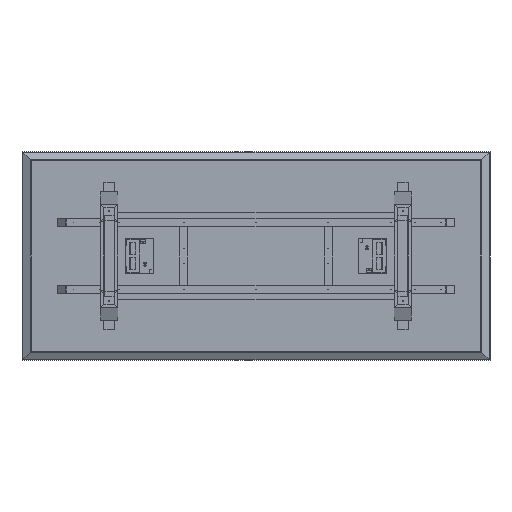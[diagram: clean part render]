
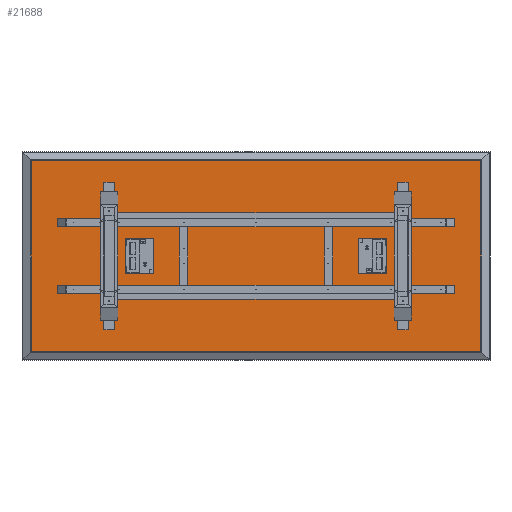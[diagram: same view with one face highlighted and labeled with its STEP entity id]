
A CAD part, front view. The second image highlights one B-rep face of the part: STEP entity #21688.
In plain terms, the highlighted planar face has unit normal (0, -1, 0).
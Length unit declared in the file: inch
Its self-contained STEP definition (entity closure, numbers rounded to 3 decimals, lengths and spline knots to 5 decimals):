
#2509=FACE_BOUND('',#4626,.T.);
#2510=FACE_BOUND('',#4627,.T.);
#2511=FACE_BOUND('',#4628,.T.);
#2512=FACE_BOUND('',#4629,.T.);
#2734=PLANE('',#23759);
#3525=FACE_OUTER_BOUND('',#4625,.T.);
#4625=EDGE_LOOP('',(#15962,#15963,#15964,#15965));
#4626=EDGE_LOOP('',(#15966,#15967,#15968,#15969));
#4627=EDGE_LOOP('',(#15970,#15971,#15972,#15973));
#4628=EDGE_LOOP('',(#15974,#15975,#15976,#15977));
#4629=EDGE_LOOP('',(#15978,#15979,#15980,#15981));
#5884=LINE('',#31722,#8154);
#5888=LINE('',#31730,#8158);
#5891=LINE('',#31736,#8161);
#5894=LINE('',#31741,#8164);
#5896=LINE('',#31747,#8166);
#5900=LINE('',#31755,#8170);
#5903=LINE('',#31761,#8173);
#5906=LINE('',#31766,#8176);
#5949=LINE('',#31887,#8219);
#5952=LINE('',#31892,#8222);
#5954=LINE('',#31897,#8224);
#5957=LINE('',#31902,#8227);
#5959=LINE('',#31906,#8229);
#5960=LINE('',#31908,#8230);
#5962=LINE('',#31912,#8232);
#5963=LINE('',#31914,#8233);
#5964=LINE('',#31918,#8234);
#5965=LINE('',#31920,#8235);
#5966=LINE('',#31922,#8236);
#5967=LINE('',#31923,#8237);
#8154=VECTOR('',#25735,0.3937);
#8158=VECTOR('',#25741,0.3937);
#8161=VECTOR('',#25746,0.3937);
#8164=VECTOR('',#25751,0.3937);
#8166=VECTOR('',#25757,0.3937);
#8170=VECTOR('',#25763,0.3937);
#8173=VECTOR('',#25768,0.3937);
#8176=VECTOR('',#25773,0.3937);
#8219=VECTOR('',#25888,0.3937);
#8222=VECTOR('',#25893,0.3937);
#8224=VECTOR('',#25897,0.3937);
#8227=VECTOR('',#25902,0.3937);
#8229=VECTOR('',#25906,0.3937);
#8230=VECTOR('',#25909,0.3937);
#8232=VECTOR('',#25913,0.3937);
#8233=VECTOR('',#25916,0.3937);
#8234=VECTOR('',#25919,0.3937);
#8235=VECTOR('',#25920,0.3937);
#8236=VECTOR('',#25921,0.3937);
#8237=VECTOR('',#25922,0.3937);
#10887=VERTEX_POINT('',#31720);
#10888=VERTEX_POINT('',#31721);
#10891=VERTEX_POINT('',#31729);
#10893=VERTEX_POINT('',#31735);
#10895=VERTEX_POINT('',#31745);
#10896=VERTEX_POINT('',#31746);
#10899=VERTEX_POINT('',#31754);
#10901=VERTEX_POINT('',#31760);
#10943=VERTEX_POINT('',#31884);
#10944=VERTEX_POINT('',#31886);
#10945=VERTEX_POINT('',#31890);
#10946=VERTEX_POINT('',#31894);
#10947=VERTEX_POINT('',#31896);
#10948=VERTEX_POINT('',#31900);
#10949=VERTEX_POINT('',#31904);
#10950=VERTEX_POINT('',#31910);
#10951=VERTEX_POINT('',#31916);
#10952=VERTEX_POINT('',#31917);
#10953=VERTEX_POINT('',#31919);
#10954=VERTEX_POINT('',#31921);
#12807=EDGE_CURVE('',#10887,#10888,#5884,.T.);
#12811=EDGE_CURVE('',#10891,#10887,#5888,.T.);
#12814=EDGE_CURVE('',#10893,#10891,#5891,.T.);
#12817=EDGE_CURVE('',#10888,#10893,#5894,.T.);
#12819=EDGE_CURVE('',#10895,#10896,#5896,.T.);
#12823=EDGE_CURVE('',#10899,#10895,#5900,.T.);
#12826=EDGE_CURVE('',#10901,#10899,#5903,.T.);
#12829=EDGE_CURVE('',#10896,#10901,#5906,.T.);
#12888=EDGE_CURVE('',#10944,#10943,#5949,.T.);
#12891=EDGE_CURVE('',#10943,#10945,#5952,.T.);
#12893=EDGE_CURVE('',#10947,#10946,#5954,.T.);
#12896=EDGE_CURVE('',#10946,#10948,#5957,.T.);
#12898=EDGE_CURVE('',#10945,#10949,#5959,.T.);
#12899=EDGE_CURVE('',#10949,#10944,#5960,.T.);
#12901=EDGE_CURVE('',#10948,#10950,#5962,.T.);
#12902=EDGE_CURVE('',#10950,#10947,#5963,.T.);
#12903=EDGE_CURVE('',#10951,#10952,#5964,.T.);
#12904=EDGE_CURVE('',#10952,#10953,#5965,.T.);
#12905=EDGE_CURVE('',#10953,#10954,#5966,.T.);
#12906=EDGE_CURVE('',#10954,#10951,#5967,.T.);
#15962=ORIENTED_EDGE('',*,*,#12903,.T.);
#15963=ORIENTED_EDGE('',*,*,#12904,.T.);
#15964=ORIENTED_EDGE('',*,*,#12905,.T.);
#15965=ORIENTED_EDGE('',*,*,#12906,.T.);
#15966=ORIENTED_EDGE('',*,*,#12807,.T.);
#15967=ORIENTED_EDGE('',*,*,#12817,.T.);
#15968=ORIENTED_EDGE('',*,*,#12814,.T.);
#15969=ORIENTED_EDGE('',*,*,#12811,.T.);
#15970=ORIENTED_EDGE('',*,*,#12819,.T.);
#15971=ORIENTED_EDGE('',*,*,#12829,.T.);
#15972=ORIENTED_EDGE('',*,*,#12826,.T.);
#15973=ORIENTED_EDGE('',*,*,#12823,.T.);
#15974=ORIENTED_EDGE('',*,*,#12898,.T.);
#15975=ORIENTED_EDGE('',*,*,#12899,.T.);
#15976=ORIENTED_EDGE('',*,*,#12888,.T.);
#15977=ORIENTED_EDGE('',*,*,#12891,.T.);
#15978=ORIENTED_EDGE('',*,*,#12901,.T.);
#15979=ORIENTED_EDGE('',*,*,#12902,.T.);
#15980=ORIENTED_EDGE('',*,*,#12893,.T.);
#15981=ORIENTED_EDGE('',*,*,#12896,.T.);
#21688=ADVANCED_FACE('',(#3525,#2509,#2510,#2511,#2512),#2734,.T.);
#23759=AXIS2_PLACEMENT_3D('',#31915,#25917,#25918);
#25735=DIRECTION('',(-1.,0.,0.));
#25741=DIRECTION('',(0.,0.,-1.));
#25746=DIRECTION('',(1.,0.,0.));
#25751=DIRECTION('',(0.,0.,1.));
#25757=DIRECTION('',(0.,0.,-1.));
#25763=DIRECTION('',(1.,0.,0.));
#25768=DIRECTION('',(0.,0.,1.));
#25773=DIRECTION('',(-1.,0.,0.));
#25888=DIRECTION('',(0.,0.,1.));
#25893=DIRECTION('',(1.,0.,0.));
#25897=DIRECTION('',(0.,0.,1.));
#25902=DIRECTION('',(1.,0.,0.));
#25906=DIRECTION('',(0.,0.,-1.));
#25909=DIRECTION('',(-1.,0.,0.));
#25913=DIRECTION('',(0.,0.,-1.));
#25916=DIRECTION('',(-1.,0.,0.));
#25917=DIRECTION('center_axis',(0.,-1.,0.));
#25918=DIRECTION('ref_axis',(0.,0.,-1.));
#25919=DIRECTION('',(0.,0.,1.));
#25920=DIRECTION('',(-1.,0.,0.));
#25921=DIRECTION('',(0.,0.,-1.));
#25922=DIRECTION('',(1.,0.,0.));
#31720=CARTESIAN_POINT('',(89.25,-1.5,-41.09782));
#31721=CARTESIAN_POINT('',(86.75,-1.5,-41.09782));
#31722=CARTESIAN_POINT('',(71.625,-1.5,-41.09782));
#31729=CARTESIAN_POINT('',(89.25,-1.5,-6.90218));
#31730=CARTESIAN_POINT('',(89.25,-1.5,-15.45109));
#31735=CARTESIAN_POINT('',(86.75,-1.5,-6.90218));
#31736=CARTESIAN_POINT('',(70.375,-1.5,-6.90218));
#31741=CARTESIAN_POINT('',(86.75,-1.5,-32.54891));
#31745=CARTESIAN_POINT('',(21.25,-1.5,-6.90218));
#31746=CARTESIAN_POINT('',(21.25,-1.5,-41.09782));
#31747=CARTESIAN_POINT('',(21.25,-1.5,-15.45109));
#31754=CARTESIAN_POINT('',(18.75,-1.5,-6.90218));
#31755=CARTESIAN_POINT('',(36.375,-1.5,-6.90218));
#31760=CARTESIAN_POINT('',(18.75,-1.5,-41.09782));
#31761=CARTESIAN_POINT('',(18.75,-1.5,-32.54891));
#31766=CARTESIAN_POINT('',(37.625,-1.5,-41.09782));
#31884=CARTESIAN_POINT('',(23.6875,-1.5,-19.90625));
#31886=CARTESIAN_POINT('',(23.6875,-1.5,-28.09375));
#31887=CARTESIAN_POINT('',(23.6875,-1.5,-21.95313));
#31890=CARTESIAN_POINT('',(30.3125,-1.5,-19.90625));
#31892=CARTESIAN_POINT('',(42.15625,-1.5,-19.90625));
#31894=CARTESIAN_POINT('',(77.6875,-1.5,-19.90625));
#31896=CARTESIAN_POINT('',(77.6875,-1.5,-28.09375));
#31897=CARTESIAN_POINT('',(77.6875,-1.5,-21.95313));
#31900=CARTESIAN_POINT('',(84.3125,-1.5,-19.90625));
#31902=CARTESIAN_POINT('',(69.15625,-1.5,-19.90625));
#31904=CARTESIAN_POINT('',(30.3125,-1.5,-28.09375));
#31906=CARTESIAN_POINT('',(30.3125,-1.5,-26.04688));
#31908=CARTESIAN_POINT('',(38.84375,-1.5,-28.09375));
#31910=CARTESIAN_POINT('',(84.3125,-1.5,-28.09375));
#31912=CARTESIAN_POINT('',(84.3125,-1.5,-26.04688));
#31914=CARTESIAN_POINT('',(65.84375,-1.5,-28.09375));
#31915=CARTESIAN_POINT('Origin',(54.,-1.5,-24.));
#31916=CARTESIAN_POINT('',(106.,-1.5,-46.));
#31917=CARTESIAN_POINT('',(106.,-1.5,-2.));
#31918=CARTESIAN_POINT('',(106.,-1.5,-46.));
#31919=CARTESIAN_POINT('',(2.,-1.5,-2.));
#31920=CARTESIAN_POINT('',(106.,-1.5,-2.));
#31921=CARTESIAN_POINT('',(2.,-1.5,-46.));
#31922=CARTESIAN_POINT('',(2.,-1.5,-2.));
#31923=CARTESIAN_POINT('',(2.,-1.5,-46.));
